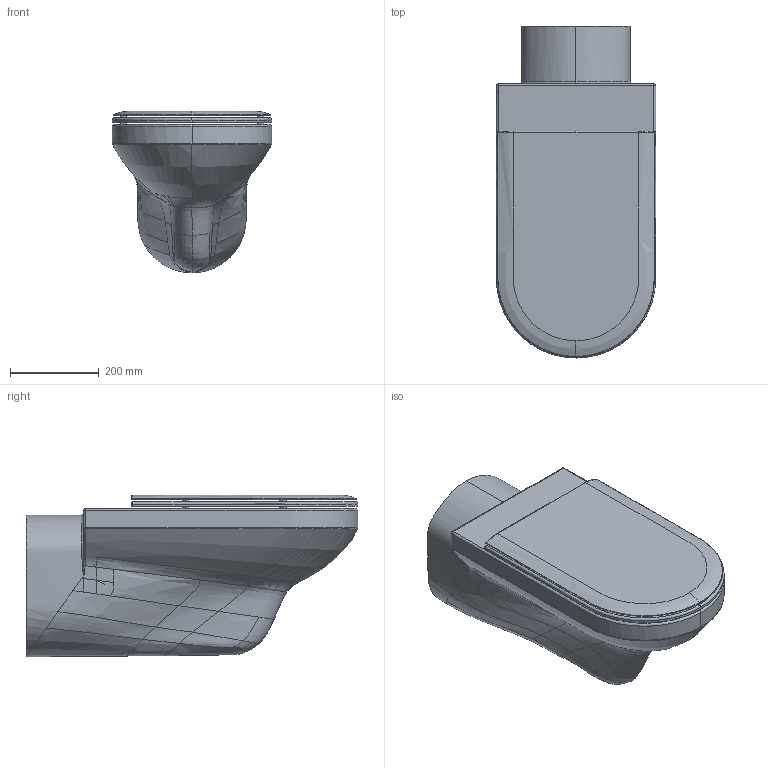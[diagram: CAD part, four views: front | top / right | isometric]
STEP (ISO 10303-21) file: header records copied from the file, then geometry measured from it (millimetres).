
FILE_DESCRIPTION (( 'STEP AP203' ), '1' );
FILE_NAME ('THVCSP000010.STEP', '2019-05-29T15:43:38', ( '' ), ( '' ), 'SwSTEP 2.0', 'SolidWorks 2019', '' );
FILE_SCHEMA (( 'CONFIG_CONTROL_DESIGN' ));
Length unit declared in the file: millimetre
Products named in the file (3): THVCSP000010; THI100SA_DIS; THI1800 SA_DIS
Assembly tree (2 placements, depth 2):
  THVCSP000010
    THI100SA_DIS
    THI1800 SA_DIS
Bounding box: 360 x 750 x 365.02 mm (x, y, z)
Volume: 33610588.5 mm3; surface area: 1609330.2 mm2
Topology: 2 solids, 2 shells, 221 faces, 532 edges, 320 vertices
Faces by surface type: bspline 128, cylinder 45, plane 30, torus 10, sphere 4, cone 4
Entity records: 35439 total; most frequent: CARTESIAN_POINT 30955, ORIENTED_EDGE 1048, DIRECTION 575, EDGE_CURVE 524, VERTEX_POINT 320, B_SPLINE_CURVE_WITH_KNOTS 279, EDGE_LOOP 242, AXIS2_PLACEMENT_3D 238
